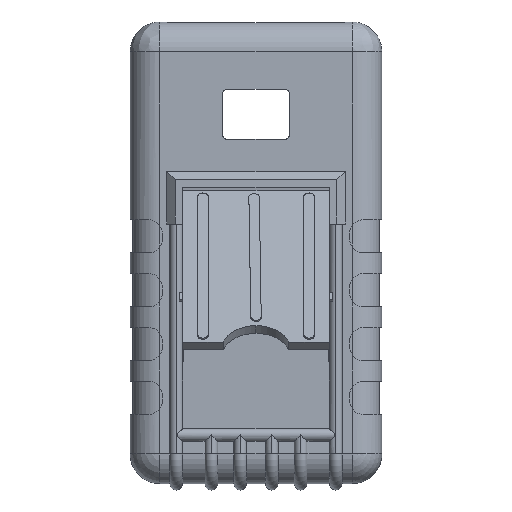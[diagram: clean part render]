
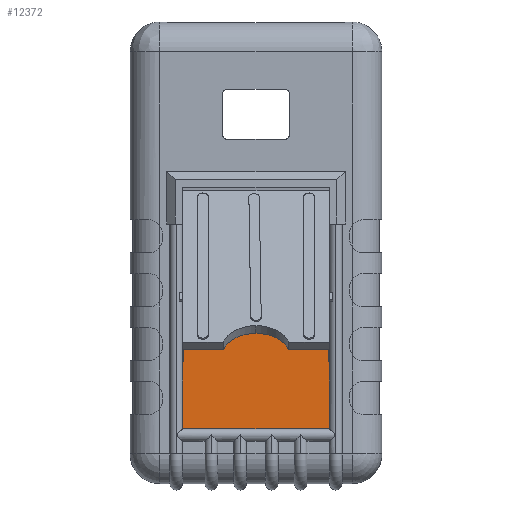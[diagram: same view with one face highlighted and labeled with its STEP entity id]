
A CAD part, front view. The second image highlights one B-rep face of the part: STEP entity #12372.
In plain terms, the highlighted planar face has unit normal (0, -1, 0).
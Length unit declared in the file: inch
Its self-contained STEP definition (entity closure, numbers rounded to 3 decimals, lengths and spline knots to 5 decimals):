
#289 = CARTESIAN_POINT ( 'NONE',  ( 0., 0., -1.15818 ) ) ;
#847 = EDGE_LOOP ( 'NONE', ( #11603, #12197, #14445, #16452, #10890, #15792, #19189, #13031, #19745, #14846, #12067, #20564, #12691, #17976 ) ) ;
#1156 = DIRECTION ( 'NONE',  ( 0., 0., 1. ) ) ;
#1389 = VERTEX_POINT ( 'NONE', #19125 ) ;
#1444 = DIRECTION ( 'NONE',  ( 0., 0., -1. ) ) ;
#1825 = VECTOR ( 'NONE', #15927, 39.37008 ) ;
#1955 = DIRECTION ( 'NONE',  ( 1., 0., 0. ) ) ;
#2829 = LINE ( 'NONE', #7643, #11596 ) ;
#2845 = CARTESIAN_POINT ( 'NONE',  ( -0.875, 0., 0.34356 ) ) ;
#2924 = VECTOR ( 'NONE', #5558, 39.37008 ) ;
#3058 = AXIS2_PLACEMENT_3D ( 'NONE', #4264, #18304, #7771 ) ;
#3139 = VECTOR ( 'NONE', #7297, 39.37008 ) ;
#3529 = EDGE_CURVE ( 'NONE', #5738, #7365, #8745, .T. ) ;
#4040 = CARTESIAN_POINT ( 'NONE',  ( 0., 0., -1.29701 ) ) ;
#4076 = VECTOR ( 'NONE', #21706, 39.37008 ) ;
#4264 = CARTESIAN_POINT ( 'NONE',  ( 0., 0., 0. ) ) ;
#4386 = EDGE_CURVE ( 'NONE', #7365, #17712, #19173, .T. ) ;
#4449 = VECTOR ( 'NONE', #1444, 39.37008 ) ;
#5544 = CARTESIAN_POINT ( 'NONE',  ( -0.85976, 0., 0. ) ) ;
#5558 = DIRECTION ( 'NONE',  ( 0., 0., 1. ) ) ;
#5738 = VERTEX_POINT ( 'NONE', #17885 ) ;
#5921 = LINE ( 'NONE', #16071, #2924 ) ;
#6179 = CARTESIAN_POINT ( 'NONE',  ( 0.875, 0., -2.09444 ) ) ;
#6314 = VERTEX_POINT ( 'NONE', #17411 ) ;
#6462 = LINE ( 'NONE', #15845, #1825 ) ;
#7020 = FACE_OUTER_BOUND ( 'NONE', #847, .T. ) ;
#7297 = DIRECTION ( 'NONE',  ( 0., 0., 1. ) ) ;
#7365 = VERTEX_POINT ( 'NONE', #14641 ) ;
#7643 = CARTESIAN_POINT ( 'NONE',  ( 0.85976, 0., 0. ) ) ;
#7771 = DIRECTION ( 'NONE',  ( 0., 0., -1. ) ) ;
#7773 = LINE ( 'NONE', #5544, #3139 ) ;
#8224 = DIRECTION ( 'NONE',  ( 0., 0., 1. ) ) ;
#8381 = VECTOR ( 'NONE', #1156, 39.37008 ) ;
#8725 = VECTOR ( 'NONE', #17043, 39.37008 ) ;
#8745 = LINE ( 'NONE', #19935, #4076 ) ;
#8852 = VERTEX_POINT ( 'NONE', #6179 ) ;
#8922 = DIRECTION ( 'NONE',  ( -1., 0., 0. ) ) ;
#9117 = LINE ( 'NONE', #20285, #4449 ) ;
#9207 = EDGE_CURVE ( 'NONE', #8852, #11577, #16811, .T. ) ;
#9230 = CARTESIAN_POINT ( 'NONE',  ( 0.875, 0., -2.396 ) ) ;
#10010 = EDGE_CURVE ( 'NONE', #11577, #12344, #12029, .T. ) ;
#10890 = ORIENTED_EDGE ( 'NONE', *, *, #21565, .T. ) ;
#11159 = VERTEX_POINT ( 'NONE', #18513 ) ;
#11577 = VERTEX_POINT ( 'NONE', #14972 ) ;
#11596 = VECTOR ( 'NONE', #16399, 39.37008 ) ;
#11603 = ORIENTED_EDGE ( 'NONE', *, *, #20678, .T. ) ;
#11628 = CARTESIAN_POINT ( 'NONE',  ( -0.875, 0., 0.78056 ) ) ;
#11879 = EDGE_CURVE ( 'NONE', #11159, #6314, #11986, .T. ) ;
#11986 = LINE ( 'NONE', #289, #20788 ) ;
#12029 = LINE ( 'NONE', #4040, #18637 ) ;
#12067 = ORIENTED_EDGE ( 'NONE', *, *, #12504, .F. ) ;
#12197 = ORIENTED_EDGE ( 'NONE', *, *, #11879, .T. ) ;
#12344 = VERTEX_POINT ( 'NONE', #16380 ) ;
#12372 = ADVANCED_FACE ( 'NONE', ( #7020 ), #16528, .T. ) ;
#12504 = EDGE_CURVE ( 'NONE', #21373, #16191, #5921, .T. ) ;
#12664 = LINE ( 'NONE', #21204, #22578 ) ;
#12691 = ORIENTED_EDGE ( 'NONE', *, *, #9207, .T. ) ;
#12740 = DIRECTION ( 'NONE',  ( 0., 0., 1. ) ) ;
#12806 = DIRECTION ( 'NONE',  ( 1., 0., 0. ) ) ;
#13031 = ORIENTED_EDGE ( 'NONE', *, *, #3529, .F. ) ;
#13033 = LINE ( 'NONE', #11628, #8381 ) ;
#14276 = EDGE_CURVE ( 'NONE', #6314, #18687, #18102, .T. ) ;
#14445 = ORIENTED_EDGE ( 'NONE', *, *, #14276, .T. ) ;
#14516 = CARTESIAN_POINT ( 'NONE',  ( 0., 0., -1.29701 ) ) ;
#14558 = CARTESIAN_POINT ( 'NONE',  ( 0.875, 0., 0.59256 ) ) ;
#14588 = LINE ( 'NONE', #14516, #18736 ) ;
#14641 = CARTESIAN_POINT ( 'NONE',  ( -0.875, 0., -1.15818 ) ) ;
#14846 = ORIENTED_EDGE ( 'NONE', *, *, #21743, .F. ) ;
#14972 = CARTESIAN_POINT ( 'NONE',  ( 0.875, 0., -1.29701 ) ) ;
#15637 = VERTEX_POINT ( 'NONE', #19168 ) ;
#15792 = ORIENTED_EDGE ( 'NONE', *, *, #19093, .F. ) ;
#15845 = CARTESIAN_POINT ( 'NONE',  ( 0.9375, 0., -2.09444 ) ) ;
#15927 = DIRECTION ( 'NONE',  ( -1., 0., 0. ) ) ;
#16071 = CARTESIAN_POINT ( 'NONE',  ( -0.875, 0., -2.396 ) ) ;
#16191 = VERTEX_POINT ( 'NONE', #19436 ) ;
#16256 = VECTOR ( 'NONE', #12740, 39.37008 ) ;
#16380 = CARTESIAN_POINT ( 'NONE',  ( 0.85976, 0., -1.29701 ) ) ;
#16399 = DIRECTION ( 'NONE',  ( 0., 0., 1. ) ) ;
#16452 = ORIENTED_EDGE ( 'NONE', *, *, #21413, .F. ) ;
#16528 = PLANE ( 'NONE',  #3058 ) ;
#16811 = LINE ( 'NONE', #9230, #16256 ) ;
#17043 = DIRECTION ( 'NONE',  ( 0., 0., 1. ) ) ;
#17356 = VERTEX_POINT ( 'NONE', #14558 ) ;
#17411 = CARTESIAN_POINT ( 'NONE',  ( 0.875, 0., -1.15818 ) ) ;
#17479 = EDGE_CURVE ( 'NONE', #8852, #21373, #6462, .T. ) ;
#17712 = VERTEX_POINT ( 'NONE', #2845 ) ;
#17885 = CARTESIAN_POINT ( 'NONE',  ( -0.85976, 0., -1.15818 ) ) ;
#17976 = ORIENTED_EDGE ( 'NONE', *, *, #10010, .T. ) ;
#18087 = DIRECTION ( 'NONE',  ( -1., 0., 0. ) ) ;
#18102 = LINE ( 'NONE', #22212, #22231 ) ;
#18304 = DIRECTION ( 'NONE',  ( 0., -1., 0. ) ) ;
#18513 = CARTESIAN_POINT ( 'NONE',  ( 0.85976, 0., -1.15818 ) ) ;
#18637 = VECTOR ( 'NONE', #18087, 39.37008 ) ;
#18687 = VERTEX_POINT ( 'NONE', #20958 ) ;
#18736 = VECTOR ( 'NONE', #12806, 39.37008 ) ;
#18824 = CARTESIAN_POINT ( 'NONE',  ( -0.875, 0., -2.396 ) ) ;
#19093 = EDGE_CURVE ( 'NONE', #17712, #1389, #13033, .T. ) ;
#19125 = CARTESIAN_POINT ( 'NONE',  ( -0.875, 0., 0.59256 ) ) ;
#19168 = CARTESIAN_POINT ( 'NONE',  ( -0.85976, 0., -1.29701 ) ) ;
#19173 = LINE ( 'NONE', #18824, #8725 ) ;
#19189 = ORIENTED_EDGE ( 'NONE', *, *, #4386, .F. ) ;
#19365 = EDGE_CURVE ( 'NONE', #15637, #5738, #7773, .T. ) ;
#19436 = CARTESIAN_POINT ( 'NONE',  ( -0.875, 0., -1.29701 ) ) ;
#19745 = ORIENTED_EDGE ( 'NONE', *, *, #19365, .F. ) ;
#19935 = CARTESIAN_POINT ( 'NONE',  ( 0., 0., -1.15818 ) ) ;
#20285 = CARTESIAN_POINT ( 'NONE',  ( 0.875, 0., 0.78056 ) ) ;
#20564 = ORIENTED_EDGE ( 'NONE', *, *, #17479, .F. ) ;
#20678 = EDGE_CURVE ( 'NONE', #12344, #11159, #2829, .T. ) ;
#20788 = VECTOR ( 'NONE', #1955, 39.37008 ) ;
#20958 = CARTESIAN_POINT ( 'NONE',  ( 0.875, 0., 0.34356 ) ) ;
#21204 = CARTESIAN_POINT ( 'NONE',  ( -0.875, 0., 0.59256 ) ) ;
#21373 = VERTEX_POINT ( 'NONE', #22068 ) ;
#21413 = EDGE_CURVE ( 'NONE', #17356, #18687, #9117, .T. ) ;
#21565 = EDGE_CURVE ( 'NONE', #17356, #1389, #12664, .T. ) ;
#21706 = DIRECTION ( 'NONE',  ( -1., 0., 0. ) ) ;
#21743 = EDGE_CURVE ( 'NONE', #16191, #15637, #14588, .T. ) ;
#22068 = CARTESIAN_POINT ( 'NONE',  ( -0.875, 0., -2.09444 ) ) ;
#22212 = CARTESIAN_POINT ( 'NONE',  ( 0.875, 0., -2.396 ) ) ;
#22231 = VECTOR ( 'NONE', #8224, 39.37008 ) ;
#22578 = VECTOR ( 'NONE', #8922, 39.37008 ) ;
